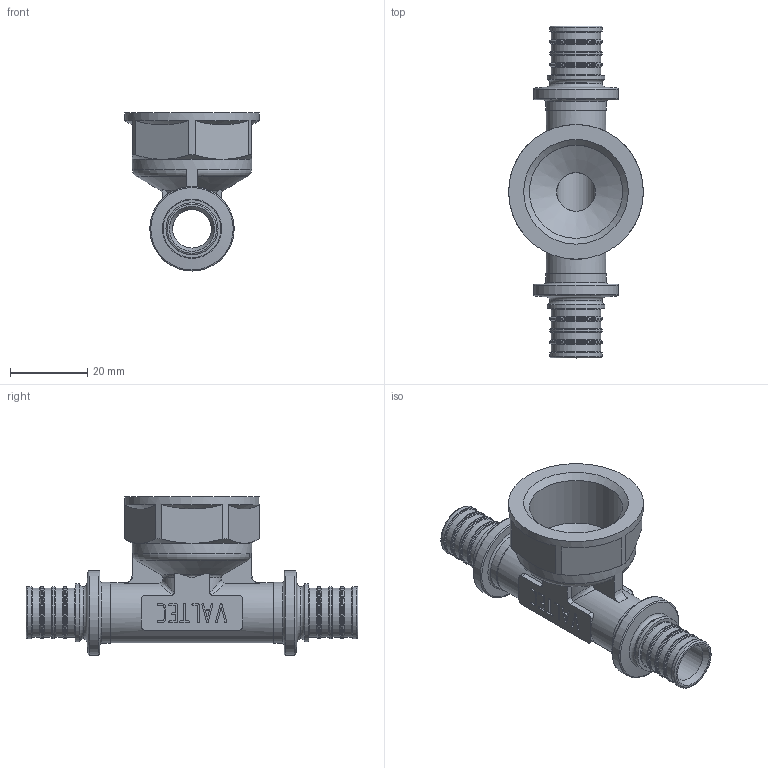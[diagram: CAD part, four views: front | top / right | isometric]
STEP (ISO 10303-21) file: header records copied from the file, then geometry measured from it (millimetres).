
FILE_DESCRIPTION(('STEP AP203'), '1');
FILE_NAME('ÂÐ.752249.020 - VTm.432.G.160516 Ôèò. òðîé. ñ ïåð', '', ('UNSPECIFIED'), ('UNSPECIFIED'), 'C3D Converter', 'C3D Toolkit', '');
FILE_SCHEMA(('CONFIG_CONTROL_DESIGN'));
Length unit declared in the file: millimetre
Products named in the file (1): ВР.752249.020
Bounding box: 34.9 x 86 x 40.95 mm (x, y, z)
Volume: 16733.1 mm3; surface area: 12639.6 mm2
Topology: 1 solids, 1 shells, 397 faces, 1057 edges, 679 vertices
Faces by surface type: extrusion 142, plane 131, torus 50, cylinder 46, cone 22, bspline 6
Full cylindrical faces by diameter (mm): 10 x2, 12.8 x8, 13.5 x10, 15 x2, 15.5 x1, 15.8 x2, 21.9 x2, 24.118 x1, 31 x1, 34.9 x1
Entity records: 17497 total; most frequent: CARTESIAN_POINT 5392, ORIENTED_EDGE 1950, DIRECTION 1382, EDGE_CURVE 975, VERTEX_POINT 679, VECTOR 600, B_SPLINE_CURVE_WITH_KNOTS 515, EDGE_LOOP 500
